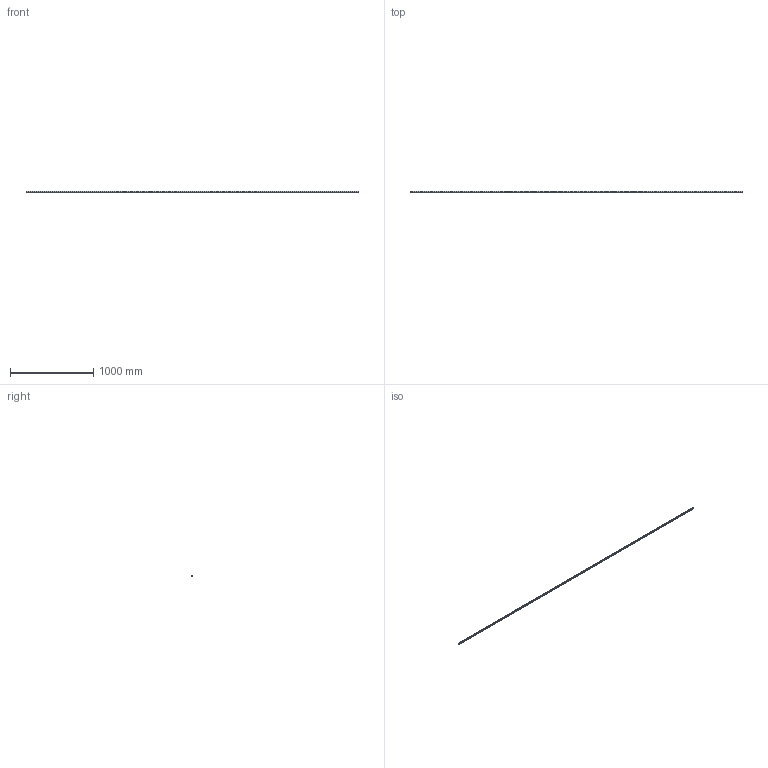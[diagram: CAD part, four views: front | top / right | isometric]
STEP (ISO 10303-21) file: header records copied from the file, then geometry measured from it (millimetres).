
FILE_DESCRIPTION(('FreeCAD Model'),'2;1');
FILE_NAME('Open CASCADE Shape Model','2024-12-05T09:40:58',('Author'),( ''),'Open CASCADE STEP processor 7.6','FreeCAD','Unknown');
FILE_SCHEMA(('AUTOMOTIVE_DESIGN { 1 0 10303 214 1 1 1 1 }'));
Length unit declared in the file: millimetre
Products named in the file (1): ER15-R-4000-20-20
Bounding box: 4000 x 15 x 12.5 mm (x, y, z)
Volume: 667769 mm3; surface area: 235646.6 mm2
Topology: 1 solids, 1 shells, 298 faces, 888 edges, 592 vertices
Faces by surface type: plane 160, cylinder 138
Full cylindrical faces by diameter (mm): 4.5 x67, 7.5 x67
Entity records: 10492 total; most frequent: CARTESIAN_POINT 1913, DIRECTION 1896, ORIENTED_EDGE 1776, EDGE_CURVE 888, AXIS2_PLACEMENT_3D 843, VERTEX_POINT 592, FACE_BOUND 432, EDGE_LOOP 432
